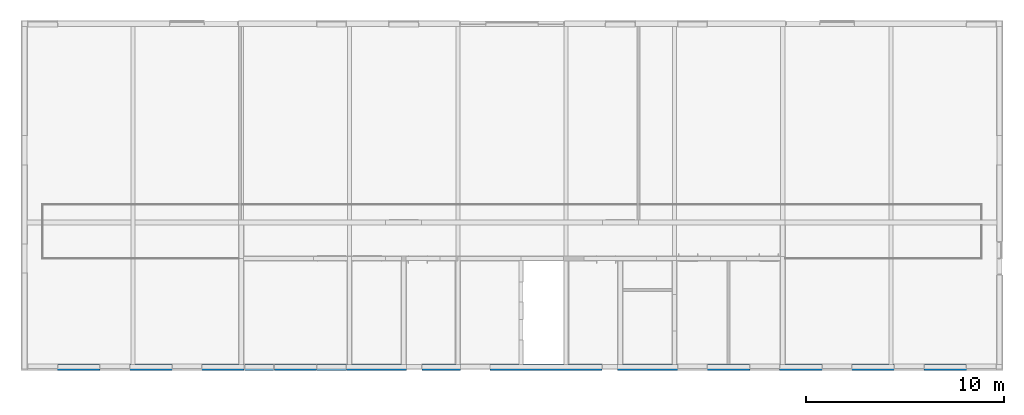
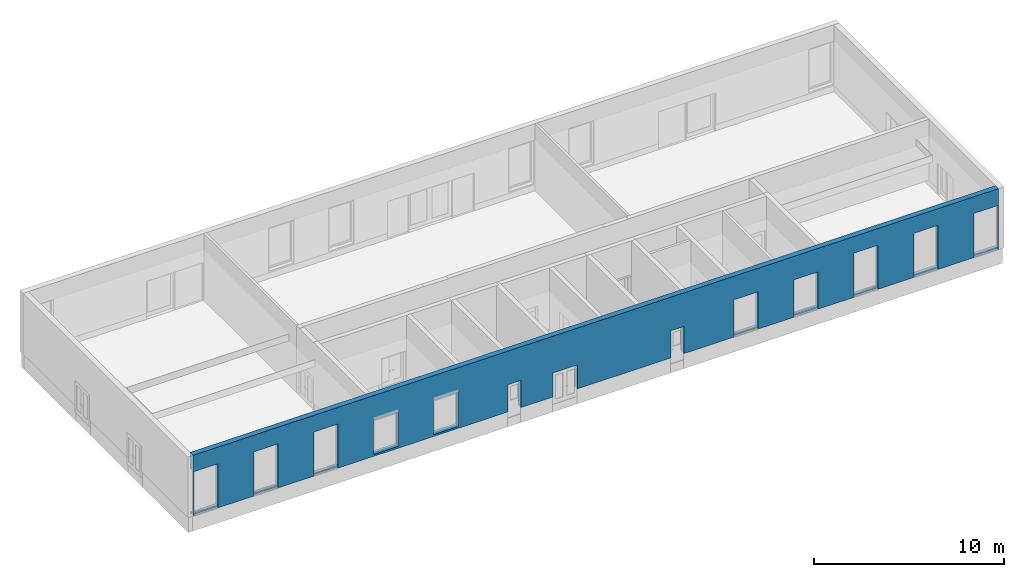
# One storey, part 8 of 22: 1 wall, 13 openings.
"""IFC4X3 building model written with IfcOpenShell, lengths in millimetres."""

import ifcopenshell
import ifcopenshell.guid

model = None  # the IFC model being written
_history = None  # IfcOwnerHistory: only IFC2X3 demands one
_inside = {}  # id of a spatial element -> (the spatial element, [elements in it])
_under = {}  # id of a project, library or spatial element -> (it, [spatial elements below it])
_declared = {}  # id of a project -> (the project, [libraries it declares])
_typed = {}  # id of a type object -> (the type object, [elements of that type])
_made_of = {}  # id of a material, layer set ... -> (it, [elements and type objects made of it])


def new_model(schema):
    """Start an empty IFC model of exactly this schema.

    Asked for "IFC4X3", IfcOpenShell would pick the latest addendum, in which some entities
    have other attributes; the version numbers below select the first issue.
    IFC2X3 requires an IfcOwnerHistory on every rooted entity: one is made here for all.
    """
    global model, _history
    if schema == "IFC4X3":
        model = ifcopenshell.file(schema_version=(4, 3, 0, 0))
    else:
        model = ifcopenshell.file(schema=schema)
    _inside.clear()
    _under.clear()
    _declared.clear()
    _typed.clear()
    _made_of.clear()
    _history = None
    if model.schema == "IFC2X3":
        org = make("IfcOrganization", Name="unknown")
        user = make(
            "IfcPersonAndOrganization",
            ThePerson=make("IfcPerson", FamilyName="unknown"),
            TheOrganization=org,
        )
        app = make(
            "IfcApplication",
            ApplicationDeveloper=org,
            Version="unknown",
            ApplicationFullName="unknown",
            ApplicationIdentifier="unknown",
        )
        _history = make(
            "IfcOwnerHistory",
            OwningUser=user,
            OwningApplication=app,
            ChangeAction="ADDED",
            CreationDate=0,
        )
    return model


def make(cls, **values):
    """One entity of the class cls with the attributes given. An attribute that is None is left unset."""
    return model.create_entity(
        cls, **{name: value for name, value in values.items() if value is not None}
    )


def entity(cls, *values):
    """Any entity or typed value of the class cls, its attributes in the order of the schema. None: left unset."""
    e = model.create_entity(cls)
    for i, value in enumerate(values):
        if value is not None:
            e[i] = value
    return e


def rooted(cls, **values):
    """An entity with a GlobalId (a new one), such as an element, a storey or a relation."""
    return make(cls, GlobalId=ifcopenshell.guid.new(), OwnerHistory=_history, **values)


def si_unit(unit_type, name, prefix=None):
    """IfcSIUnit, for example si_unit("LENGTHUNIT", "METRE", prefix="MILLI")."""
    return make("IfcSIUnit", UnitType=unit_type, Prefix=prefix, Name=name)


def converted_unit(unit_type, name, factor, base, dimensions=None, offset=None):
    """IfcConversionBasedUnit, such as the inch: factor (a typed value) times the base unit."""
    return make(
        "IfcConversionBasedUnit"
        if offset is None
        else "IfcConversionBasedUnitWithOffset",
        ConversionOffset=offset,
        Dimensions=None
        if dimensions is None
        else entity("IfcDimensionalExponents", *dimensions),
        UnitType=unit_type,
        Name=name,
        ConversionFactor=make(
            "IfcMeasureWithUnit", ValueComponent=factor, UnitComponent=base
        ),
    )


def derived_unit(unit_type, elements):
    """IfcDerivedUnit: a product of units, each with its exponent."""
    return make(
        "IfcDerivedUnit",
        Elements=[
            make("IfcDerivedUnitElement", Unit=unit, Exponent=power)
            for unit, power in elements
        ],
        UnitType=unit_type,
    )


def assignment(units):
    """IfcUnitAssignment: the units of a project."""
    return None if units is None else make("IfcUnitAssignment", Units=units)


def point(xyz):
    """IfcCartesianPoint."""
    return None if xyz is None else make("IfcCartesianPoint", Coordinates=xyz)


def direction(xyz):
    """IfcDirection."""
    return None if xyz is None else make("IfcDirection", DirectionRatios=xyz)


def frame(location, z_axis=None, x_axis=None):
    """IfcAxis2Placement3D, a coordinate frame: its origin and axes. An axis left out is left unset."""
    return make(
        "IfcAxis2Placement3D",
        Location=point(location),
        Axis=direction(z_axis),
        RefDirection=direction(x_axis),
    )


def frame_2d(location, x_axis=None):
    """IfcAxis2Placement2D, a coordinate frame in the plane: its origin and x axis."""
    return make(
        "IfcAxis2Placement2D", Location=point(location), RefDirection=direction(x_axis)
    )


def origin():
    """The frame at (0, 0, 0) with its axes left unset."""
    return frame((0.0, 0.0, 0.0))


def origin_2d_with_axis():
    """The frame at (0, 0) in the plane with the x axis (1, 0) written out."""
    return frame_2d((0.0, 0.0), x_axis=(1.0, 0.0))


def place(relative_to, where):
    """IfcLocalPlacement: puts the frame where relative to a parent placement (None: the world)."""
    return make(
        "IfcLocalPlacement", PlacementRelTo=relative_to, RelativePlacement=where
    )


def context(
    kind, dimensions, precision=None, world=None, true_north=None, identifier=None
):
    """IfcGeometricRepresentationContext, for example the 3D "Model" context."""
    return make(
        "IfcGeometricRepresentationContext",
        ContextIdentifier=identifier,
        ContextType=kind,
        CoordinateSpaceDimension=dimensions,
        Precision=precision,
        WorldCoordinateSystem=world,
        TrueNorth=true_north,
    )


def subcontext(parent, identifier, kind, view, scale=None):
    """IfcGeometricRepresentationSubContext, for example "Body" below "Model"."""
    return make(
        "IfcGeometricRepresentationSubContext",
        ContextIdentifier=identifier,
        ContextType=kind,
        ParentContext=parent,
        TargetScale=scale,
        TargetView=view,
    )


def project(units=None, contexts=None):
    """IfcProject with its units and contexts."""
    return rooted(
        "IfcProject",
        Name="project",
        RepresentationContexts=contexts,
        UnitsInContext=assignment(units),
    )


def spatial(cls, under=None, at=None, **own):
    """A site, building, storey or space (cls), placed at a placement, below another one or the project."""
    s = rooted(cls, ObjectPlacement=at, **own)
    if under is not None:
        _under.setdefault(under.id(), (under, []))[1].append(s)
    return s


def profile(cls, at=None, kind="AREA", **sizes):
    """A parametric profile (cls). Its sizes go by their IFC names, for example OverallWidth=200.0."""
    return make(cls, ProfileType=kind, Position=at, **sizes)


def rectangle(**sizes):
    """IfcRectangleProfileDef."""
    return profile("IfcRectangleProfileDef", **sizes)


def extrude(swept, where, along, depth):
    """IfcExtrudedAreaSolid: the profile swept, set in the frame where, extruded along a direction by depth."""
    return make(
        "IfcExtrudedAreaSolid",
        SweptArea=swept,
        Position=where,
        ExtrudedDirection=direction(along),
        Depth=depth,
    )


def faces_of(points, faces, orient=None, outer=None):
    """IfcFace entities. A face is a list of loops; a loop is a list of indices into points, from 0.

    orient and outer hold one flag for each loop. By default every Orientation is true, the
    first loop of a face is its IfcFaceOuterBound and the others are IfcFaceBound.
    """
    made = []
    for i, loops in enumerate(faces):
        bounds = []
        for j, loop in enumerate(loops):
            is_outer = j == 0 if outer is None else outer[i][j]
            bounds.append(
                make(
                    "IfcFaceOuterBound" if is_outer else "IfcFaceBound",
                    Bound=make("IfcPolyLoop", Polygon=[points[k] for k in loop]),
                    Orientation=True if orient is None else orient[i][j],
                )
            )
        made.append(make("IfcFace", Bounds=bounds))
    return made


def faceted_brep(points, faces, orient=None, outer=None, voids=None):
    """IfcFacetedBrep: a solid bounded by flat faces; with voids (closed shells), ...WithVoids."""
    shared = [point(p) for p in points]
    hull = make("IfcClosedShell", CfsFaces=faces_of(shared, faces, orient, outer))
    if voids is None:
        return make("IfcFacetedBrep", Outer=hull)
    return make(
        "IfcFacetedBrepWithVoids",
        Outer=hull,
        Voids=[
            make(cls, CfsFaces=faces_of(shared, fs, o, b)) for cls, fs, o, b in voids
        ],
    )


def shape(context_of_items, identifier, shape_type, items):
    """IfcShapeRepresentation: the items that make up one representation, for example the "Body"."""
    return make(
        "IfcShapeRepresentation",
        ContextOfItems=context_of_items,
        RepresentationIdentifier=identifier,
        RepresentationType=shape_type,
        Items=items,
    )


def material(Name=None, Category=None):
    """IfcMaterial."""
    return make("IfcMaterial", Name=Name, Category=Category)


def layer(
    of_material, thickness, ventilated=None, Name=None, Category=None, Priority=None
):
    """IfcMaterialLayer: one layer of a wall or slab, of a material (None: an air gap)."""
    return make(
        "IfcMaterialLayer",
        Material=of_material,
        LayerThickness=thickness,
        IsVentilated=ventilated,
        Name=Name,
        Category=Category,
        Priority=Priority,
    )


def layer_set(layers, Name=None):
    """IfcMaterialLayerSet."""
    return make("IfcMaterialLayerSet", MaterialLayers=layers, LayerSetName=Name)


def made_of(thing, what):
    """Note that an element or type object is made of a material, layer set ...; save() writes the relation."""
    if what is not None:
        _made_of.setdefault(what.id(), (what, []))[1].append(thing)
    return thing


def type_object(cls, material=None, **own):
    """A type object (cls), such as IfcWallType, which elements share."""
    return made_of(rooted(cls, **own), material)


def element(
    cls,
    number,
    at=None,
    inside=None,
    cuts=None,
    type_object=None,
    material=None,
    context=None,
    identifier="Body",
    shape_type=None,
    held_by="IfcProductDefinitionShape",
    body=None,
    shapes=None,
    **own,
):
    """One element of the class cls, such as IfcWall. Its Tag is "e" and its number.

    at: its placement. inside: the storey or other place that contains it. cuts: it is an
    opening in that element (IfcRelVoidsElement). A single representation is given by context,
    identifier, shape_type and body (its items); several are given by shapes. held_by: the class
    of the entity that holds the representations. save() writes the other relations.
    """
    e = rooted(cls, Tag="e%d" % number, ObjectPlacement=at, **own)
    if body is not None:
        shapes = [shape(context, identifier, shape_type, body)]
    if shapes is not None:
        e.Representation = make(held_by, Representations=shapes)
    if inside is not None:
        _inside.setdefault(inside.id(), (inside, []))[1].append(e)
    if cuts is not None:
        rooted(
            "IfcRelVoidsElement", RelatingBuildingElement=cuts, RelatedOpeningElement=e
        )
    if type_object is not None:
        _typed.setdefault(type_object.id(), (type_object, []))[1].append(e)
    return made_of(e, material)


def aggregate(whole, parts):
    """IfcRelAggregates: a whole, such as a stair, and the parts it consists of."""
    return rooted("IfcRelAggregates", RelatingObject=whole, RelatedObjects=parts)


def save(model, path):
    """Write the relations noted so far, then the file.

    IfcRelAggregates (storeys below a building ...), IfcRelContainedInSpatialStructure (elements
    in a storey), IfcRelDefinesByType, IfcRelAssociatesMaterial and IfcRelDeclares: one each for
    every whole, place, type object, material and project.
    """
    for whole, parts in _under.values():
        aggregate(whole, parts)
    for where, things in _inside.values():
        rooted(
            "IfcRelContainedInSpatialStructure",
            RelatedElements=things,
            RelatingStructure=where,
        )
    for kind, things in _typed.values():
        rooted("IfcRelDefinesByType", RelatedObjects=things, RelatingType=kind)
    for what, things in _made_of.values():
        rooted("IfcRelAssociatesMaterial", RelatedObjects=things, RelatingMaterial=what)
    for by, libraries in _declared.values():
        rooted("IfcRelDeclares", RelatingContext=by, RelatedDefinitions=libraries)
    model.write(path)


model = new_model("IFC4X3")

# Units and contexts
model_context = context("Model", 3, precision=0.01, world=origin(), true_north=direction((6.12303176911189e-17, 1.0)))
body_context = subcontext(model_context, "Body", "Model", "MODEL_VIEW")
ifc_project = project(units=[si_unit("LENGTHUNIT", "METRE", prefix="MILLI"), si_unit("AREAUNIT", "SQUARE_METRE"), si_unit("VOLUMEUNIT", "CUBIC_METRE"), converted_unit("PLANEANGLEUNIT", "DEGREE", entity("IfcPlaneAngleMeasure", 0.0174532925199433), si_unit("PLANEANGLEUNIT", "RADIAN"), dimensions=[0, 0, 0, 0, 0, 0, 0]), si_unit("MASSUNIT", "GRAM", prefix="KILO"), derived_unit("MASSDENSITYUNIT", [(si_unit("MASSUNIT", "GRAM", prefix="KILO"), 1), (si_unit("LENGTHUNIT", "METRE"), -3)]), derived_unit("IONCONCENTRATIONUNIT", [(si_unit("MASSUNIT", "GRAM", prefix="KILO"), 1), (si_unit("LENGTHUNIT", "METRE"), -3)]), derived_unit("MOMENTOFINERTIAUNIT", [(si_unit("LENGTHUNIT", "METRE"), 4)]), si_unit("TIMEUNIT", "SECOND"), si_unit("FREQUENCYUNIT", "HERTZ"), si_unit("THERMODYNAMICTEMPERATUREUNIT", "DEGREE_CELSIUS"), derived_unit("THERMALTRANSMITTANCEUNIT", [(si_unit("MASSUNIT", "GRAM", prefix="KILO"), 1), (si_unit("THERMODYNAMICTEMPERATUREUNIT", "KELVIN"), -1), (si_unit("TIMEUNIT", "SECOND"), -3)]), derived_unit("THERMALCONDUCTANCEUNIT", [(si_unit("MASSUNIT", "GRAM", prefix="KILO"), 1), (si_unit("THERMODYNAMICTEMPERATUREUNIT", "KELVIN"), -1), (si_unit("TIMEUNIT", "SECOND"), -3), (si_unit("LENGTHUNIT", "METRE"), 1)]), derived_unit("VOLUMETRICFLOWRATEUNIT", [(si_unit("LENGTHUNIT", "METRE", prefix="DECI"), 3), (si_unit("TIMEUNIT", "SECOND"), -1)]), derived_unit("MASSFLOWRATEUNIT", [(si_unit("MASSUNIT", "GRAM", prefix="KILO"), 1), (si_unit("TIMEUNIT", "SECOND"), -1)]), derived_unit("ROTATIONALFREQUENCYUNIT", [(si_unit("TIMEUNIT", "SECOND"), -1)]), si_unit("ELECTRICCURRENTUNIT", "AMPERE"), si_unit("ELECTRICVOLTAGEUNIT", "VOLT"), si_unit("POWERUNIT", "WATT"), si_unit("FORCEUNIT", "NEWTON", prefix="KILO"), si_unit("ILLUMINANCEUNIT", "LUX"), si_unit("LUMINOUSFLUXUNIT", "LUMEN"), si_unit("LUMINOUSINTENSITYUNIT", "CANDELA"), si_unit("ENERGYUNIT", "JOULE"), derived_unit("USERDEFINED", [(si_unit("MASSUNIT", "GRAM", prefix="KILO"), -1), (si_unit("LENGTHUNIT", "METRE"), -2), (si_unit("TIMEUNIT", "SECOND"), 3), (si_unit("LUMINOUSFLUXUNIT", "LUMEN"), 1)]), derived_unit("USERDEFINED", [(si_unit("MASSUNIT", "GRAM", prefix="KILO"), 1), (si_unit("TIMEUNIT", "SECOND"), -3), (si_unit("LENGTHUNIT", "METRE"), 3), (si_unit("ELECTRICCURRENTUNIT", "AMPERE"), -2)]), derived_unit("SOUNDPOWERUNIT", [(si_unit("MASSUNIT", "GRAM", prefix="KILO"), 1), (si_unit("TIMEUNIT", "SECOND"), -3), (si_unit("LENGTHUNIT", "METRE"), 2)]), derived_unit("SOUNDPRESSUREUNIT", [(si_unit("MASSUNIT", "GRAM", prefix="KILO"), 1), (si_unit("LENGTHUNIT", "METRE"), -1), (si_unit("TIMEUNIT", "SECOND"), -2)]), derived_unit("LINEARVELOCITYUNIT", [(si_unit("LENGTHUNIT", "METRE"), 1), (si_unit("TIMEUNIT", "SECOND"), -1)]), si_unit("PRESSUREUNIT", "PASCAL"), derived_unit("USERDEFINED", [(si_unit("MASSUNIT", "GRAM", prefix="KILO"), 1), (si_unit("LENGTHUNIT", "METRE"), -2), (si_unit("TIMEUNIT", "SECOND"), -2)]), derived_unit("LINEARFORCEUNIT", [(si_unit("MASSUNIT", "GRAM", prefix="KILO"), 1), (si_unit("TIMEUNIT", "SECOND"), -2)]), derived_unit("PLANARFORCEUNIT", [(si_unit("MASSUNIT", "GRAM", prefix="KILO"), 1), (si_unit("LENGTHUNIT", "METRE"), -1), (si_unit("TIMEUNIT", "SECOND"), -2)]), derived_unit("SPECIFICHEATCAPACITYUNIT", [(si_unit("THERMODYNAMICTEMPERATUREUNIT", "KELVIN"), -1), (si_unit("LENGTHUNIT", "METRE"), 2), (si_unit("TIMEUNIT", "SECOND"), -2)]), derived_unit("HEATFLUXDENSITYUNIT", [(si_unit("MASSUNIT", "GRAM", prefix="KILO"), 1), (si_unit("TIMEUNIT", "SECOND"), -3)]), derived_unit("HEATINGVALUEUNIT", [(si_unit("LENGTHUNIT", "METRE"), 2), (si_unit("TIMEUNIT", "SECOND"), -2)]), derived_unit("VAPORPERMEABILITYUNIT", [(si_unit("LENGTHUNIT", "METRE"), -1), (si_unit("TIMEUNIT", "SECOND"), 1)]), derived_unit("DYNAMICVISCOSITYUNIT", [(si_unit("MASSUNIT", "GRAM", prefix="KILO"), 1), (si_unit("TIMEUNIT", "SECOND"), -1), (si_unit("LENGTHUNIT", "METRE"), -1)]), derived_unit("THERMALEXPANSIONCOEFFICIENTUNIT", [(si_unit("THERMODYNAMICTEMPERATUREUNIT", "KELVIN"), -1)]), derived_unit("MODULUSOFELASTICITYUNIT", [(si_unit("MASSUNIT", "GRAM", prefix="KILO"), 1), (si_unit("LENGTHUNIT", "METRE"), -1), (si_unit("TIMEUNIT", "SECOND"), -2)]), derived_unit("ISOTHERMALMOISTURECAPACITYUNIT", [(si_unit("MASSUNIT", "GRAM", prefix="KILO"), -1), (si_unit("LENGTHUNIT", "METRE"), 3)]), derived_unit("MOISTUREDIFFUSIVITYUNIT", [(si_unit("TIMEUNIT", "SECOND"), -1), (si_unit("LENGTHUNIT", "METRE"), 2)]), derived_unit("AREADENSITYUNIT", [(si_unit("MASSUNIT", "GRAM", prefix="KILO"), 1), (si_unit("LENGTHUNIT", "METRE"), 2)]), derived_unit("MASSPERLENGTHUNIT", [(si_unit("MASSUNIT", "GRAM", prefix="KILO"), 1), (si_unit("LENGTHUNIT", "METRE"), -1)]), derived_unit("THERMALRESISTANCEUNIT", [(si_unit("MASSUNIT", "GRAM", prefix="KILO"), -1), (si_unit("TIMEUNIT", "SECOND"), 3), (si_unit("THERMODYNAMICTEMPERATUREUNIT", "KELVIN"), 1)]), derived_unit("ACCELERATIONUNIT", [(si_unit("LENGTHUNIT", "METRE"), 1), (si_unit("TIMEUNIT", "SECOND"), -2)]), derived_unit("ANGULARVELOCITYUNIT", [(si_unit("TIMEUNIT", "SECOND"), -1), (si_unit("PLANEANGLEUNIT", "RADIAN"), 1)]), derived_unit("LINEARSTIFFNESSUNIT", [(si_unit("MASSUNIT", "GRAM", prefix="KILO"), 1), (si_unit("TIMEUNIT", "SECOND"), -2)]), derived_unit("WARPINGCONSTANTUNIT", [(si_unit("LENGTHUNIT", "METRE"), 6)]), derived_unit("LINEARMOMENTUNIT", [(si_unit("MASSUNIT", "GRAM", prefix="KILO"), 1), (si_unit("LENGTHUNIT", "METRE"), 1), (si_unit("TIMEUNIT", "SECOND"), -2)]), derived_unit("TORQUEUNIT", [(si_unit("MASSUNIT", "GRAM", prefix="KILO"), 1), (si_unit("LENGTHUNIT", "METRE"), 2), (si_unit("TIMEUNIT", "SECOND"), -2)])], contexts=[model_context])

# Site, building, storey
site_placement = place(None, origin())
site = spatial("IfcSite", under=ifc_project, at=site_placement, Name="Default", CompositionType="ELEMENT")
building_placement = place(site_placement, origin())
building = spatial("IfcBuilding", under=site, at=building_placement, Name="事務所ビル", CompositionType="ELEMENT")
storey_placement = place(building_placement, origin())
storey = spatial("IfcBuildingStorey", under=building, at=storey_placement, Name="1FL", CompositionType="ELEMENT", Elevation=0.0)

# Wall, openings
ifc_material_1 = material(Name="<Unnamed>")
ifc_layer_1 = layer(ifc_material_1, 46.0, Name="Layer")
ifc_material_2 = material(Name="合板", Category="一般")
ifc_layer_2 = layer(ifc_material_2, 12.0, Name="合板", Category="一般")
ifc_material_3 = material(Name="天然木材", Category="一般")
ifc_layer_3 = layer(ifc_material_3, 240.0, Name="天然木材", Category="一般")
ifc_layer_4 = layer(ifc_material_2, 12.0, Name="合板", Category="一般")
ifc_material_4 = material(Name="せっこうボード", Category="一般")
ifc_layer_5 = layer(ifc_material_4, 15.0, Name="せっこうボード", Category="一般")
ifc_layer_set = layer_set([ifc_layer_1, ifc_layer_2, ifc_layer_3, ifc_layer_4, ifc_layer_5], Name="標準壁:外装材46_構造用合板12_木240_構造用合板12_GB-R15")
wall_type = type_object("IfcWallType", Name="標準壁:外装材46_構造用合板12_木240_構", PredefinedType="STANDARD", material=ifc_layer_set)
wall_placement = place(storey_placement, frame((147.0, -15.5000000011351, 400.0)))
wall = element("IfcWall", 1, at=wall_placement, inside=storey, type_object=wall_type, material=ifc_layer_set, Name="標準壁:外装材46_構造用合板12_木240_構造用合板12_GB-R15", ObjectType="標準壁:外装材46_構造用合板12_木240_構造用合板12_GB-R15", PredefinedType="NOTDEFINED", context=body_context, shape_type="SweptSolid", body=[
    extrude(rectangle(XDim=48846.0000000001, YDim=325.0, at=frame_2d((24423.0, 1.4210854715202e-14), x_axis=(-1.0, 0.0))), origin(), (0.0, 0.0, 1.0), 3900.0),
])
opening_1_placement = place(wall_placement, frame((-147.0, 15.5000000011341, -400.0)))
element("IfcOpeningElement", 2, at=opening_1_placement, cuts=wall, Name="標準壁:外装材46_構造用合板12_木240_構造用合板12_GB-R15", PredefinedType="OPENING", context=body_context, shape_type="SweptSolid", body=[
    extrude(rectangle(XDim=2155.00000000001, YDim=779.999999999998, at=frame_2d((0.0, 2.1600499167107e-12), x_axis=(1.0, 0.0))), frame((19632.0, -1404.0, 1062.49999999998), z_axis=(0.0, 1.0, 0.0), x_axis=(0.0, 0.0, -1.0)), (0.0, 0.0, 1.0), 3048.0),
])
opening_2_placement = place(wall_placement, frame((-147.0, 15.5000000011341, -500.0)))
element("IfcOpeningElement", 3, at=opening_2_placement, cuts=wall, Name="標準壁:外装材46_構造用合板12_木240_構造用合板12_GB-R15", PredefinedType="OPENING", context=body_context, shape_type="SweptSolid", body=[
    extrude(rectangle(XDim=2055.00000000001, YDim=1480.0, at=origin_2d_with_axis()), frame((22712.0, -1404.0, 1012.49999999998), z_axis=(0.0, 1.0, 0.0), x_axis=(0.0, 0.0, -1.0)), (0.0, 0.0, 1.0), 3048.0),
])
opening_3_placement = place(wall_placement, frame((-147.0, 15.5000000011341, -400.0)))
element("IfcOpeningElement", 4, at=opening_3_placement, cuts=wall, Name="標準壁:外装材46_構造用合板12_木240_構造用合板12_GB-R15", PredefinedType="OPENING", context=body_context, shape_type="SweptSolid", body=[
    extrude(rectangle(XDim=2155.00000000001, YDim=780.0, at=frame_2d((2.1600499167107e-12, 2.27373675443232e-13), x_axis=(0.0, 1.0))), frame((29508.0, -1404.0, 1062.49999999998), z_axis=(0.0, 1.0, 0.0), x_axis=(1.0, 0.0, 0.0)), (0.0, 0.0, 1.0), 3048.0),
])
opening_4_placement = place(wall_placement, frame((-147.0, 15.5000000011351, 120.0)))
element("IfcOpeningElement", 5, at=opening_4_placement, cuts=wall, Name="標準壁:外装材46_構造用合板12_木240_構造用合板12_GB-R15", PredefinedType="OPENING", context=body_context, shape_type="Brep", body=[
    faceted_brep([(1675.0, 157.0, -35.0), (1675.0, 157.0, 2735.0), (1675.0, -48.0, 2735.0), (1675.0, -48.0, -35.0), (145.0, 157.0, -35.0), (145.0, -48.0, -35.0), (145.0, -48.0, 2735.0), (145.0, 157.0, 2735.0), (155.0, -48.0, -35.0), (155.0, -48.0, 2730.0), (1665.0, -48.0, 2730.0), (1665.0, -48.0, -35.0), (1665.0, -118.0, 2730.0), (1665.0, -118.0, -115.769230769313), (1665.0, -48.0, -105.0), (155.0, -48.0, -105.0), (155.0, -118.0, -115.769230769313), (155.0, -118.0, 2730.0), (1645.0, -118.0, -115.769230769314), (1645.0, -178.0, -125.0), (175.0, -178.0, -125.0), (175.0, -118.0, -115.769230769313), (175.0, -118.0, 2710.0), (1645.0, -118.0, 2710.0), (1645.0, -178.0, 2710.0), (175.0, -178.0, 2710.0)], [[[0, 1, 2, 3]], [[4, 5, 6, 7]], [[1, 0, 4, 7]], [[2, 1, 7, 6]], [[3, 2, 6, 5, 8, 9, 10, 11]], [[0, 3, 11, 8, 5, 4]], [[10, 12, 13, 14, 11]], [[15, 16, 17, 9, 8]], [[14, 13, 18, 19, 20, 21, 16, 15]], [[13, 12, 17, 16, 21, 22, 23, 18]], [[23, 24, 19, 18]], [[21, 20, 25, 22]], [[19, 24, 25, 20]], [[24, 23, 22, 25]], [[12, 10, 9, 17]], [[14, 15, 8, 11]]]),
])
opening_5_placement = place(wall_placement, frame((-147.0, 15.5000000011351, 120.0)))
element("IfcOpeningElement", 6, at=opening_5_placement, cuts=wall, Name="標準壁:外装材46_構造用合板12_木240_構造用合板12_GB-R15", PredefinedType="OPENING", context=body_context, shape_type="Brep", body=[
    faceted_brep([(5315.0, 157.0, -35.0), (5315.0, 157.0, 2735.0), (5315.0, -48.0, 2735.0), (5315.0, -48.0, -35.0), (3785.0, 157.0, -35.0), (3785.0, -48.0, -35.0), (3785.0, -48.0, 2735.0), (3785.0, 157.0, 2735.0), (5305.0, -48.0, -35.0), (3795.0, -48.0, -35.0), (3795.0, -48.0, 2730.0), (5305.0, -48.0, 2730.0), (5305.0, -118.0, 2730.0), (5305.0, -118.0, -115.769230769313), (5305.0, -48.0, -105.0), (3795.0, -48.0, -105.0), (3795.0, -118.0, -115.769230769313), (3795.0, -118.0, 2730.0), (5285.0, -118.0, -115.769230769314), (5285.0, -178.0, -125.0), (3815.0, -178.0, -125.0), (3815.0, -118.0, -115.769230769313), (3815.0, -118.0, 2710.0), (5285.0, -118.0, 2710.0), (5285.0, -178.0, 2710.0), (3815.0, -178.0, 2710.0)], [[[0, 1, 2, 3]], [[4, 5, 6, 7]], [[0, 3, 8, 9, 5, 4]], [[3, 2, 6, 5, 9, 10, 11, 8]], [[2, 1, 7, 6]], [[1, 0, 4, 7]], [[11, 12, 13, 14, 8]], [[15, 16, 17, 10, 9]], [[14, 13, 18, 19, 20, 21, 16, 15]], [[13, 12, 17, 16, 21, 22, 23, 18]], [[12, 11, 10, 17]], [[14, 15, 9, 8]], [[23, 24, 19, 18]], [[21, 20, 25, 22]], [[19, 24, 25, 20]], [[24, 23, 22, 25]]]),
])
opening_6_placement = place(wall_placement, frame((-147.0, 15.5000000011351, 120.0)))
element("IfcOpeningElement", 7, at=opening_6_placement, cuts=wall, Name="標準壁:外装材46_構造用合板12_木240_構造用合板12_GB-R15", PredefinedType="OPENING", context=body_context, shape_type="Brep", body=[
    faceted_brep([(8955.0, 157.0, -35.0), (8955.0, 157.0, 2735.0), (8955.0, -48.0, 2735.0), (8955.0, -48.0, -35.0), (7425.0, 157.0, -35.0), (7425.0, -48.0, -35.0), (7425.0, -48.0, 2735.0), (7425.0, 157.0, 2735.0), (8945.0, -48.0, -35.0), (7435.0, -48.0, -35.0), (7435.0, -48.0, 2730.0), (8945.0, -48.0, 2730.0), (8945.0, -118.0, 2730.0), (8945.0, -118.0, -115.769230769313), (8945.0, -48.0, -105.0), (7435.0, -48.0, -105.0), (7435.0, -118.0, -115.769230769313), (7435.0, -118.0, 2730.0), (8925.0, -118.0, -115.769230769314), (8925.0, -178.0, -125.0), (7455.0, -178.0, -125.0), (7455.0, -118.0, -115.769230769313), (7455.0, -118.0, 2710.0), (8925.0, -118.0, 2710.0), (8925.0, -178.0, 2710.0), (7455.0, -178.0, 2710.0)], [[[0, 1, 2, 3]], [[4, 5, 6, 7]], [[0, 3, 8, 9, 5, 4]], [[3, 2, 6, 5, 9, 10, 11, 8]], [[2, 1, 7, 6]], [[1, 0, 4, 7]], [[11, 12, 13, 14, 8]], [[15, 16, 17, 10, 9]], [[14, 13, 18, 19, 20, 21, 16, 15]], [[13, 12, 17, 16, 21, 22, 23, 18]], [[12, 11, 10, 17]], [[14, 15, 9, 8]], [[23, 24, 19, 18]], [[21, 20, 25, 22]], [[19, 24, 25, 20]], [[24, 23, 22, 25]]]),
])
opening_7_placement = place(wall_placement, frame((-147.0, 15.5000000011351, 120.0)))
element("IfcOpeningElement", 8, at=opening_7_placement, cuts=wall, Name="標準壁:外装材46_構造用合板12_木240_構造用合板12_GB-R15", PredefinedType="OPENING", context=body_context, shape_type="Brep", body=[
    faceted_brep([(34435.0, 157.0, -35.0), (34435.0, 157.0, 2295.0), (34435.0, -48.0, 2295.0), (34435.0, -48.0, -35.0), (32905.0, 157.0, -35.0), (32905.0, -48.0, -35.0), (32905.0, -48.0, 2295.0), (32905.0, 157.0, 2295.0), (34425.0, -48.0, -35.0), (32915.0, -48.0, -35.0), (32915.0, -48.0, 2290.0), (34425.0, -48.0, 2290.0), (34425.0, -118.0, 2290.0), (34425.0, -118.0, -115.769230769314), (34425.0, -48.0, -105.0), (32915.0, -48.0, -105.0), (32915.0, -118.0, -115.769230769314), (32915.0, -118.0, 2290.0), (34405.0, -118.0, -115.769230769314), (34405.0, -178.0, -125.0), (32935.0, -178.0, -125.0), (32935.0, -118.0, -115.769230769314), (32935.0, -118.0, 2270.0), (34405.0, -118.0, 2270.0), (34405.0, -178.0, 2270.0), (32935.0, -178.0, 2270.0)], [[[0, 1, 2, 3]], [[4, 5, 6, 7]], [[0, 3, 8, 9, 5, 4]], [[3, 2, 6, 5, 9, 10, 11, 8]], [[2, 1, 7, 6]], [[1, 0, 4, 7]], [[11, 12, 13, 14, 8]], [[15, 16, 17, 10, 9]], [[14, 13, 18, 19, 20, 21, 16, 15]], [[13, 12, 17, 16, 21, 22, 23, 18]], [[12, 11, 10, 17]], [[14, 15, 9, 8]], [[23, 24, 19, 18]], [[21, 20, 25, 22]], [[19, 24, 25, 20]], [[24, 23, 22, 25]]]),
])
opening_8_placement = place(wall_placement, frame((-147.0, 15.5000000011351, 120.0)))
element("IfcOpeningElement", 9, at=opening_8_placement, cuts=wall, Name="標準壁:外装材46_構造用合板12_木240_構造用合板12_GB-R15", PredefinedType="OPENING", context=body_context, shape_type="Brep", body=[
    faceted_brep([(38075.0, 157.0, -35.0), (38075.0, 157.0, 2295.0), (38075.0, -48.0, 2295.0), (38075.0, -48.0, -35.0), (36545.0, 157.0, -35.0), (36545.0, -48.0, -35.0), (36545.0, -48.0, 2295.0), (36545.0, 157.0, 2295.0), (38065.0, -48.0, -35.0), (36555.0, -48.0, -35.0), (36555.0, -48.0, 2290.0), (38065.0, -48.0, 2290.0), (38065.0, -118.0, 2290.0), (38065.0, -118.0, -115.769230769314), (38065.0, -48.0, -105.0), (36555.0, -48.0, -105.0), (36555.0, -118.0, -115.769230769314), (36555.0, -118.0, 2290.0), (38045.0, -118.0, -115.769230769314), (38045.0, -178.0, -125.0), (36575.0, -178.0, -125.0), (36575.0, -118.0, -115.769230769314), (36575.0, -118.0, 2270.0), (38045.0, -118.0, 2270.0), (38045.0, -178.0, 2270.0), (36575.0, -178.0, 2270.0)], [[[0, 1, 2, 3]], [[4, 5, 6, 7]], [[0, 3, 8, 9, 5, 4]], [[3, 2, 6, 5, 9, 10, 11, 8]], [[2, 1, 7, 6]], [[1, 0, 4, 7]], [[11, 12, 13, 14, 8]], [[15, 16, 17, 10, 9]], [[14, 13, 18, 19, 20, 21, 16, 15]], [[13, 12, 17, 16, 21, 22, 23, 18]], [[12, 11, 10, 17]], [[14, 15, 9, 8]], [[23, 24, 19, 18]], [[21, 20, 25, 22]], [[19, 24, 25, 20]], [[24, 23, 22, 25]]]),
])
opening_9_placement = place(wall_placement, frame((-147.0, 15.5000000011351, 120.0)))
element("IfcOpeningElement", 10, at=opening_9_placement, cuts=wall, Name="標準壁:外装材46_構造用合板12_木240_構造用合板12_GB-R15", PredefinedType="OPENING", context=body_context, shape_type="Brep", body=[
    faceted_brep([(41715.0, 157.0, -35.0), (41715.0, 157.0, 2735.0), (41715.0, -48.0, 2735.0), (41715.0, -48.0, -35.0), (40185.0, 157.0, -35.0), (40185.0, -48.0, -35.0), (40185.0, -48.0, 2735.0), (40185.0, 157.0, 2735.0), (41705.0, -48.0, -35.0), (40195.0, -48.0, -35.0), (40195.0, -48.0, 2730.0), (41705.0, -48.0, 2730.0), (41705.0, -118.0, 2730.0), (41705.0, -118.0, -115.769230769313), (41705.0, -48.0, -105.0), (40195.0, -48.0, -105.0), (40195.0, -118.0, -115.769230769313), (40195.0, -118.0, 2730.0), (41685.0, -118.0, -115.769230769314), (41685.0, -178.0, -125.0), (40215.0, -178.0, -125.0), (40215.0, -118.0, -115.769230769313), (40215.0, -118.0, 2710.0), (41685.0, -118.0, 2710.0), (41685.0, -178.0, 2710.0), (40215.0, -178.0, 2710.0)], [[[0, 1, 2, 3]], [[4, 5, 6, 7]], [[0, 3, 8, 9, 5, 4]], [[3, 2, 6, 5, 9, 10, 11, 8]], [[2, 1, 7, 6]], [[1, 0, 4, 7]], [[11, 12, 13, 14, 8]], [[15, 16, 17, 10, 9]], [[14, 13, 18, 19, 20, 21, 16, 15]], [[13, 12, 17, 16, 21, 22, 23, 18]], [[12, 11, 10, 17]], [[14, 15, 9, 8]], [[23, 24, 19, 18]], [[21, 20, 25, 22]], [[19, 24, 25, 20]], [[24, 23, 22, 25]]]),
])
opening_10_placement = place(wall_placement, frame((-147.0, 15.5000000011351, 120.0)))
element("IfcOpeningElement", 11, at=opening_10_placement, cuts=wall, Name="標準壁:外装材46_構造用合板12_木240_構造用合板12_GB-R15", PredefinedType="OPENING", context=body_context, shape_type="Brep", body=[
    faceted_brep([(45355.0, 157.0, -35.0), (45355.0, 157.0, 2735.0), (45355.0, -48.0, 2735.0), (45355.0, -48.0, -35.0), (43825.0, 157.0, -35.0), (43825.0, -48.0, -35.0), (43825.0, -48.0, 2735.0), (43825.0, 157.0, 2735.0), (45345.0, -48.0, -35.0), (43835.0, -48.0, -35.0), (43835.0, -48.0, 2730.0), (45345.0, -48.0, 2730.0), (45345.0, -118.0, 2730.0), (45345.0, -118.0, -115.769230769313), (45345.0, -48.0, -105.0), (43835.0, -48.0, -105.0), (43835.0, -118.0, -115.769230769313), (43835.0, -118.0, 2730.0), (45325.0, -118.0, -115.769230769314), (45325.0, -178.0, -125.0), (43855.0, -178.0, -125.0), (43855.0, -118.0, -115.769230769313), (43855.0, -118.0, 2710.0), (45325.0, -118.0, 2710.0), (45325.0, -178.0, 2710.0), (43855.0, -178.0, 2710.0)], [[[0, 1, 2, 3]], [[4, 5, 6, 7]], [[0, 3, 8, 9, 5, 4]], [[3, 2, 6, 5, 9, 10, 11, 8]], [[2, 1, 7, 6]], [[1, 0, 4, 7]], [[11, 12, 13, 14, 8]], [[15, 16, 17, 10, 9]], [[14, 13, 18, 19, 20, 21, 16, 15]], [[13, 12, 17, 16, 21, 22, 23, 18]], [[12, 11, 10, 17]], [[14, 15, 9, 8]], [[23, 24, 19, 18]], [[21, 20, 25, 22]], [[19, 24, 25, 20]], [[24, 23, 22, 25]]]),
])
opening_11_placement = place(wall_placement, frame((-147.0, 15.5000000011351, 120.0)))
element("IfcOpeningElement", 12, at=opening_11_placement, cuts=wall, Name="標準壁:外装材46_構造用合板12_木240_構造用合板12_GB-R15", PredefinedType="OPENING", context=body_context, shape_type="Brep", body=[
    faceted_brep([(48995.0, 157.0, -35.0), (48995.0, 157.0, 2735.0), (48995.0, -48.0, 2735.0), (48995.0, -48.0, -35.0), (47465.0, 157.0, -35.0), (47465.0, -48.0, -35.0), (47465.0, -48.0, 2735.0), (47465.0, 157.0, 2735.0), (48985.0, -48.0, -35.0), (47475.0, -48.0, -35.0), (47475.0, -48.0, 2730.0), (48985.0, -48.0, 2730.0), (48985.0, -118.0, 2730.0), (48985.0, -118.0, -115.769230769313), (48985.0, -48.0, -105.0), (47475.0, -48.0, -105.0), (47475.0, -118.0, -115.769230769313), (47475.0, -118.0, 2730.0), (48965.0, -118.0, -115.769230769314), (48965.0, -178.0, -125.0), (47495.0, -178.0, -125.0), (47495.0, -118.0, -115.769230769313), (47495.0, -118.0, 2710.0), (48965.0, -118.0, 2710.0), (48965.0, -178.0, 2710.0), (47495.0, -178.0, 2710.0)], [[[0, 1, 2, 3]], [[4, 5, 6, 7]], [[0, 3, 8, 9, 5, 4]], [[3, 2, 6, 5, 9, 10, 11, 8]], [[2, 1, 7, 6]], [[1, 0, 4, 7]], [[11, 12, 13, 14, 8]], [[15, 16, 17, 10, 9]], [[14, 13, 18, 19, 20, 21, 16, 15]], [[13, 12, 17, 16, 21, 22, 23, 18]], [[12, 11, 10, 17]], [[14, 15, 9, 8]], [[23, 24, 19, 18]], [[21, 20, 25, 22]], [[19, 24, 25, 20]], [[24, 23, 22, 25]]]),
])
opening_12_placement = place(wall_placement, frame((14558.0, -162.500000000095, 120.0)))
element("IfcOpeningElement", 13, at=opening_12_placement, cuts=wall, Name="シャッター - 上下開閉式:シャッター - 上下開閉式 H2200:1", PredefinedType="OPENING", context=body_context, shape_type="SweptSolid", body=[
    extrude(rectangle(XDim=2200.00000000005, YDim=1530.0, at=frame_2d((1100.00000000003, 765.000000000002), x_axis=(-1.0, 0.0))), frame((0.0, 0.0, 0.0), z_axis=(0.0, 1.0, 0.0), x_axis=(0.0, 0.0, 1.0)), (0.0, 0.0, 1.0), 325.0),
])
opening_13_placement = place(wall_placement, frame((10918.0, -162.500000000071, 120.0)))
element("IfcOpeningElement", 14, at=opening_13_placement, cuts=wall, Name="シャッター - 上下開閉式:シャッター - 上下開閉式 H2200:1", PredefinedType="OPENING", context=body_context, shape_type="SweptSolid", body=[
    extrude(rectangle(XDim=2200.00000000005, YDim=1530.0, at=frame_2d((1100.00000000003, 765.000000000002), x_axis=(-1.0, 0.0))), frame((0.0, 0.0, 0.0), z_axis=(0.0, 1.0, 0.0), x_axis=(0.0, 0.0, 1.0)), (0.0, 0.0, 1.0), 325.0),
])

save(model, "model.ifc")
